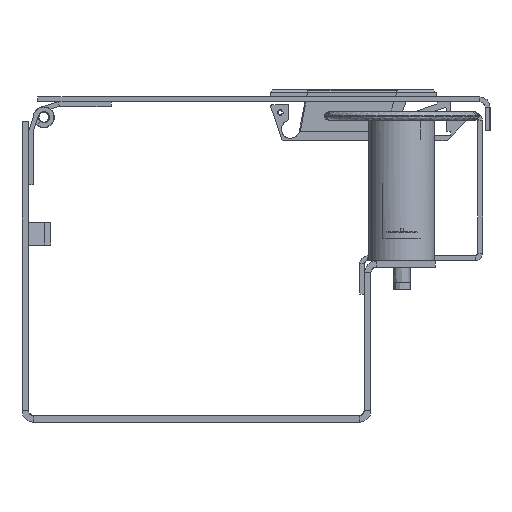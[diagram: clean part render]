
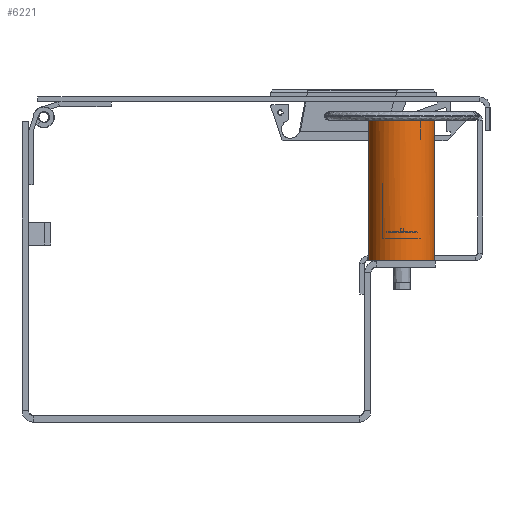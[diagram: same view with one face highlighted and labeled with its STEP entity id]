
A CAD part, front view. The second image highlights one B-rep face of the part: STEP entity #6221.
In plain terms, the highlighted free-form (B-spline) face has degree [2, 1] with [7, 2] control points.
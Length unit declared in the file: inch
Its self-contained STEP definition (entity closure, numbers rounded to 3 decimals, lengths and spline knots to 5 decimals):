
#6146=CARTESIAN_POINT('V1',(41.15269,106.23689,
   19.80976));
#6147=VERTEX_POINT('V1',#6146);
#6148=CARTESIAN_POINT('E1',(41.15269,106.23689,
   19.80976));
#6149=CARTESIAN_POINT('E1',(41.15269,105.58737,
   19.80976));
#6150=CARTESIAN_POINT('E1',(41.71519,105.91213,
   19.80976));
#6151=CARTESIAN_POINT('E1',(42.27769,106.23689,
   19.80976));
#6152=CARTESIAN_POINT('E1',(41.71519,106.56165,
   19.80976));
#6153=CARTESIAN_POINT('E1',(41.15269,106.88641,
   19.80976));
#6154=CARTESIAN_POINT('E1',(41.15269,106.23689,
   19.80976));
#6162=(BOUNDED_CURVE()B_SPLINE_CURVE(2,(#6148,#6149,#6150,#6151,
   #6152,#6153,#6154),.CIRCULAR_ARC.,.T.,.U.)
   B_SPLINE_CURVE_WITH_KNOTS((3,2,2,3),(0.0,0.33333,
   0.66667,1.0),.UNSPECIFIED.)CURVE()
   GEOMETRIC_REPRESENTATION_ITEM()RATIONAL_B_SPLINE_CURVE((1.0,
   0.5,1.0,0.5,1.0,0.5,1.0)
   )REPRESENTATION_ITEM('E1'));
#6163=EDGE_CURVE('E1',#6147,#6147,#6162,.T.);
#6171=CARTESIAN_POINT('F3',(41.15269,106.23689,
   21.48976));
#6172=CARTESIAN_POINT('F3',(41.15269,106.88641,
   21.48976));
#6173=CARTESIAN_POINT('F3',(41.71519,106.56165,
   21.48976));
#6174=CARTESIAN_POINT('F3',(42.27769,106.23689,
   21.48976));
#6175=CARTESIAN_POINT('F3',(41.71519,105.91213,
   21.48976));
#6176=CARTESIAN_POINT('F3',(41.15269,105.58737,
   21.48976));
#6177=CARTESIAN_POINT('F3',(41.15269,106.23689,
   21.48976));
#6178=CARTESIAN_POINT('F3',(41.15269,106.23689,
   19.80976));
#6179=CARTESIAN_POINT('F3',(41.15269,106.88641,
   19.80976));
#6180=CARTESIAN_POINT('F3',(41.71519,106.56165,
   19.80976));
#6181=CARTESIAN_POINT('F3',(42.27769,106.23689,
   19.80976));
#6182=CARTESIAN_POINT('F3',(41.71519,105.91213,
   19.80976));
#6183=CARTESIAN_POINT('F3',(41.15269,105.58737,
   19.80976));
#6184=CARTESIAN_POINT('F3',(41.15269,106.23689,
   19.80976));
#6192=(BOUNDED_SURFACE()B_SPLINE_SURFACE(2,1,((#6171,#6178),(
   #6172,#6179),(#6173,#6180),(#6174,#6181),(#6175,#6182),(
   #6176,#6183),(#6177,#6184)),.CYLINDRICAL_SURF.,.T.,.F.,.U.)
   B_SPLINE_SURFACE_WITH_KNOTS((3,2,2,3),(2,2),(0.0,
   0.77324,1.54647,2.31971),(0.0,1.0),
   .UNSPECIFIED.)GEOMETRIC_REPRESENTATION_ITEM()
   RATIONAL_B_SPLINE_SURFACE(((1.0,1.0),(0.5,
   0.5),(1.0,1.0),(0.5,
   0.5),(1.0,1.0),(0.5,
   0.5),(1.0,1.0)))REPRESENTATION_ITEM('F3')SURFACE()
   );
#6193=CARTESIAN_POINT('V5',(41.15269,106.23689,
   21.39601));
#6194=VERTEX_POINT('V5',#6193);
#6195=CARTESIAN_POINT('E6',(41.15269,106.23689,
   21.39601));
#6196=CARTESIAN_POINT('E6',(41.15269,106.88641,
   21.39601));
#6197=CARTESIAN_POINT('E6',(41.71519,106.56165,
   21.39601));
#6198=CARTESIAN_POINT('E6',(42.27769,106.23689,
   21.39601));
#6199=CARTESIAN_POINT('E6',(41.71519,105.91213,
   21.39601));
#6200=CARTESIAN_POINT('E6',(41.15269,105.58737,
   21.39601));
#6201=CARTESIAN_POINT('E6',(41.15269,106.23689,
   21.39601));
#6209=(BOUNDED_CURVE()B_SPLINE_CURVE(2,(#6195,#6196,#6197,#6198,
   #6199,#6200,#6201),.CIRCULAR_ARC.,.T.,.U.)
   B_SPLINE_CURVE_WITH_KNOTS((3,2,2,3),(0.0,0.33333,
   0.66667,1.0),.UNSPECIFIED.)CURVE()
   GEOMETRIC_REPRESENTATION_ITEM()RATIONAL_B_SPLINE_CURVE((1.0,
   0.5,1.0,0.5,1.0,0.5,1.0)
   )REPRESENTATION_ITEM('E6'));
#6210=EDGE_CURVE('E6',#6194,#6194,#6209,.T.);
#6211=ORIENTED_EDGE('E6',*,*,#6210,.T.);
#6212=CARTESIAN_POINT('E7',(41.15269,106.23689,
   19.80976));
#6213=CARTESIAN_POINT('E7',(41.15269,106.23689,
   21.39601));
#6214=B_SPLINE_CURVE_WITH_KNOTS('E7',1,(#6212,#6213),.POLYLINE_FORM.,
   .F.,.U.,(2,2),(0.0,0.9442),.UNSPECIFIED.);
#6215=EDGE_CURVE('E7',#6147,#6194,#6214,.T.);
#6216=ORIENTED_EDGE('E7',*,*,#6215,.F.);
#6217=ORIENTED_EDGE('F1',*,*,#6163,.T.);
#6218=ORIENTED_EDGE('E7',*,*,#6215,.T.);
#6219=EDGE_LOOP('F3',(#6211,#6216,#6217,#6218));
#6220=FACE_OUTER_BOUND('F3',#6219,.T.);
#6221=ADVANCED_FACE('F3',(#6220),#6192,.T.);
